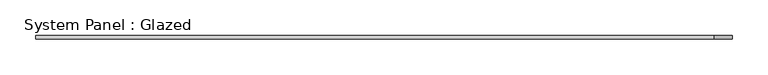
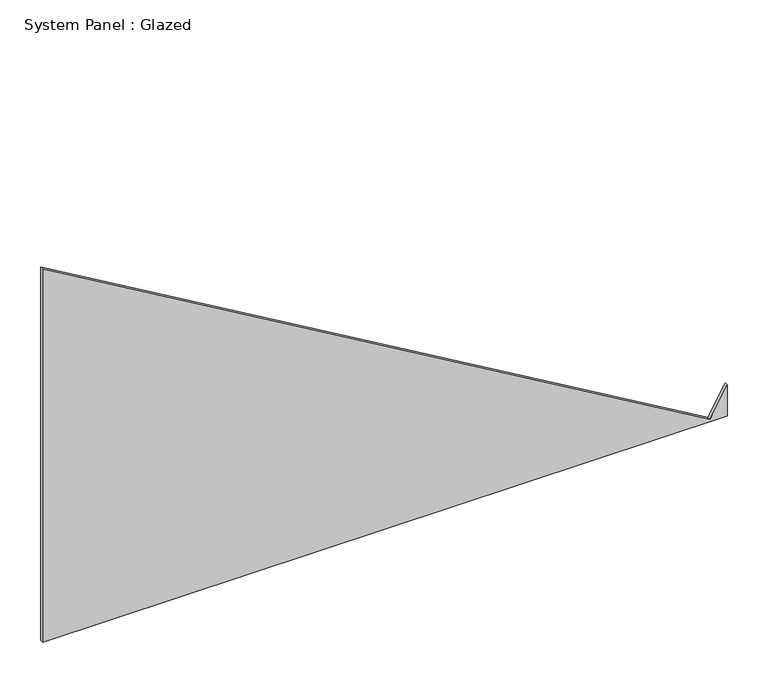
"""IFC4 building model written with IfcOpenShell, lengths in millimetres: plate geometry, System Panel : Glazed."""

from ifc_helpers import new_model, si_unit, frame, origin, place, context, project, spatial, polyline, outline, extrude, source, transform, mapped, element, save


def system_panel_glazed_bfda2260(model_context):
    return source(origin(), model_context, "Body", "SweptSolid", [
        extrude(outline(polyline([(0.0, -487.5), (0.0, 487.5), (46.1657451, 487.5), (3.0773896, 462.134795), (562.1073408, -487.5), (0.0, -487.5)])), frame((0.0, -2.5, 0.0), z_axis=(0.0, 1.0, 0.0), x_axis=(0.0, 0.0, 1.0)), (0.0, 0.0, 1.0), 5.0),
    ])


if __name__ == "__main__":
    model = new_model("IFC4")
    model_context = context("Model", 3, world=origin())
    ifc_project = project(units=[si_unit("LENGTHUNIT", "METRE", prefix="MILLI")], contexts=[model_context])
    site = spatial("IfcSite", under=ifc_project)
    building = spatial("IfcBuilding", under=site)
    placement = place(None, origin())
    system_panel_glazed_shape = system_panel_glazed_bfda2260(model_context)
    element("IfcPlate", 1, ObjectType="System Panel : Glazed", at=placement, inside=building, context=model_context, shape_type="MappedRepresentation", body=[
        mapped(system_panel_glazed_shape, transform((0.0, 0.0, 0.0), x_axis=(1.0, 0.0, 0.0), y_axis=(0.0, 1.0, 0.0), z_axis=(0.0, 0.0, 1.0))),
    ])
    save(model, "model.ifc")
